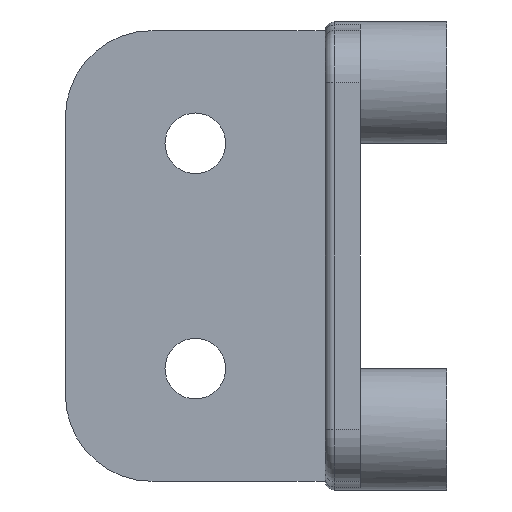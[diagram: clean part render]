
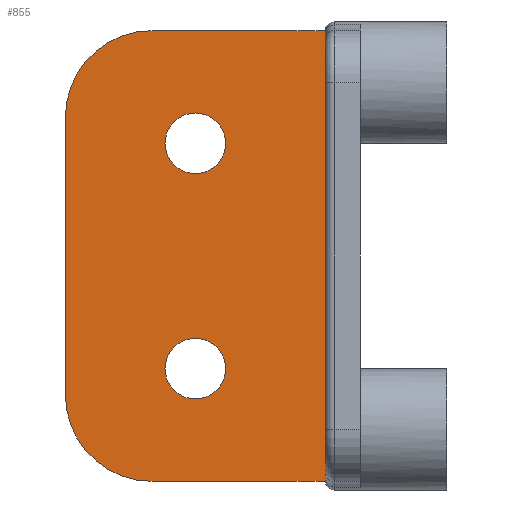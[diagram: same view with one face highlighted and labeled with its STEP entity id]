
A CAD part, front view. The second image highlights one B-rep face of the part: STEP entity #855.
In plain terms, the highlighted planar face has unit normal (0, -1, 0).
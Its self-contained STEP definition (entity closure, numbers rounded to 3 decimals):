
#19=FACE_BOUND('',#133,.T.);
#20=FACE_BOUND('',#134,.T.);
#25=PLANE('',#982);
#77=FACE_OUTER_BOUND('',#132,.T.);
#132=EDGE_LOOP('',(#677,#678,#679,#680,#681,#682,#683,#684));
#133=EDGE_LOOP('',(#685));
#134=EDGE_LOOP('',(#686));
#183=LINE('',#1478,#240);
#186=LINE('',#1491,#243);
#187=LINE('',#1494,#244);
#188=LINE('',#1495,#245);
#240=VECTOR('',#1205,10.);
#243=VECTOR('',#1218,10.);
#244=VECTOR('',#1221,10.);
#245=VECTOR('',#1222,10.);
#274=CIRCLE('',#900,1.75);
#276=CIRCLE('',#903,1.75);
#296=CIRCLE('',#935,0.5);
#325=CIRCLE('',#976,0.5);
#328=CIRCLE('',#981,5.);
#329=CIRCLE('',#983,5.);
#344=VERTEX_POINT('',#1324);
#346=VERTEX_POINT('',#1330);
#369=VERTEX_POINT('',#1398);
#370=VERTEX_POINT('',#1400);
#394=VERTEX_POINT('',#1472);
#395=VERTEX_POINT('',#1473);
#398=VERTEX_POINT('',#1484);
#399=VERTEX_POINT('',#1486);
#400=VERTEX_POINT('',#1490);
#401=VERTEX_POINT('',#1492);
#423=EDGE_CURVE('',#344,#344,#274,.T.);
#426=EDGE_CURVE('',#346,#346,#276,.T.);
#459=EDGE_CURVE('',#369,#370,#296,.F.);
#495=EDGE_CURVE('',#394,#395,#325,.F.);
#498=EDGE_CURVE('',#370,#394,#183,.T.);
#502=EDGE_CURVE('',#398,#399,#328,.T.);
#504=EDGE_CURVE('',#400,#398,#186,.T.);
#505=EDGE_CURVE('',#401,#400,#329,.T.);
#506=EDGE_CURVE('',#395,#401,#187,.T.);
#507=EDGE_CURVE('',#369,#399,#188,.T.);
#677=ORIENTED_EDGE('',*,*,#502,.F.);
#678=ORIENTED_EDGE('',*,*,#504,.F.);
#679=ORIENTED_EDGE('',*,*,#505,.F.);
#680=ORIENTED_EDGE('',*,*,#506,.F.);
#681=ORIENTED_EDGE('',*,*,#495,.F.);
#682=ORIENTED_EDGE('',*,*,#498,.F.);
#683=ORIENTED_EDGE('',*,*,#459,.F.);
#684=ORIENTED_EDGE('',*,*,#507,.T.);
#685=ORIENTED_EDGE('',*,*,#423,.T.);
#686=ORIENTED_EDGE('',*,*,#426,.T.);
#855=ADVANCED_FACE('',(#77,#19,#20),#25,.T.);
#900=AXIS2_PLACEMENT_3D('',#1326,#1026,#1027);
#903=AXIS2_PLACEMENT_3D('',#1332,#1033,#1034);
#935=AXIS2_PLACEMENT_3D('',#1401,#1110,#1111);
#976=AXIS2_PLACEMENT_3D('',#1474,#1199,#1200);
#981=AXIS2_PLACEMENT_3D('',#1487,#1213,#1214);
#982=AXIS2_PLACEMENT_3D('',#1489,#1216,#1217);
#983=AXIS2_PLACEMENT_3D('',#1493,#1219,#1220);
#1026=DIRECTION('center_axis',(0.,1.,0.));
#1027=DIRECTION('ref_axis',(1.,0.,0.));
#1033=DIRECTION('center_axis',(0.,1.,0.));
#1034=DIRECTION('ref_axis',(1.,0.,0.));
#1110=DIRECTION('center_axis',(0.,1.,0.));
#1111=DIRECTION('ref_axis',(-0.707,0.,0.707));
#1199=DIRECTION('center_axis',(0.,1.,0.));
#1200=DIRECTION('ref_axis',(-0.707,0.,-0.707));
#1205=DIRECTION('',(0.,0.,-1.));
#1213=DIRECTION('center_axis',(0.,1.,0.));
#1214=DIRECTION('ref_axis',(-0.707,0.,0.707));
#1216=DIRECTION('center_axis',(0.,-1.,0.));
#1217=DIRECTION('ref_axis',(0.,0.,1.));
#1218=DIRECTION('',(0.,0.,1.));
#1219=DIRECTION('center_axis',(0.,1.,0.));
#1220=DIRECTION('ref_axis',(-0.707,0.,-0.707));
#1221=DIRECTION('',(-1.,0.,0.));
#1222=DIRECTION('',(-1.,0.,0.));
#1324=CARTESIAN_POINT('',(-9.25,8.5,-6.5));
#1326=CARTESIAN_POINT('Origin',(-7.5,8.5,-6.5));
#1330=CARTESIAN_POINT('',(-9.25,8.5,6.5));
#1332=CARTESIAN_POINT('Origin',(-7.5,8.5,6.5));
#1398=CARTESIAN_POINT('',(0.5,8.5,13.));
#1400=CARTESIAN_POINT('',(0.,8.5,12.5));
#1401=CARTESIAN_POINT('Origin',(0.5,8.5,12.5));
#1472=CARTESIAN_POINT('',(0.,8.5,-12.5));
#1473=CARTESIAN_POINT('',(0.5,8.5,-13.));
#1474=CARTESIAN_POINT('Origin',(0.5,8.5,-12.5));
#1478=CARTESIAN_POINT('',(0.,8.5,-6.5));
#1484=CARTESIAN_POINT('',(-15.,8.5,8.));
#1486=CARTESIAN_POINT('',(-10.,8.5,13.));
#1487=CARTESIAN_POINT('Origin',(-10.,8.5,8.));
#1489=CARTESIAN_POINT('Origin',(0.,8.5,-13.));
#1490=CARTESIAN_POINT('',(-15.,8.5,-8.));
#1491=CARTESIAN_POINT('',(-15.,8.5,-13.));
#1492=CARTESIAN_POINT('',(-10.,8.5,-13.));
#1493=CARTESIAN_POINT('Origin',(-10.,8.5,-8.));
#1494=CARTESIAN_POINT('',(0.,8.5,-13.));
#1495=CARTESIAN_POINT('',(0.,8.5,13.));
